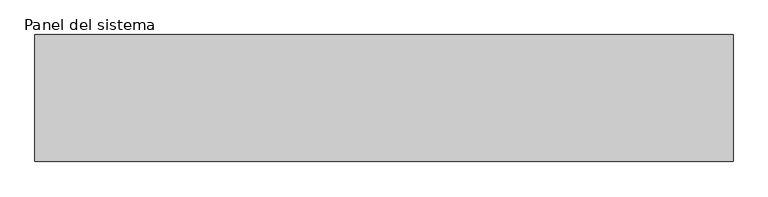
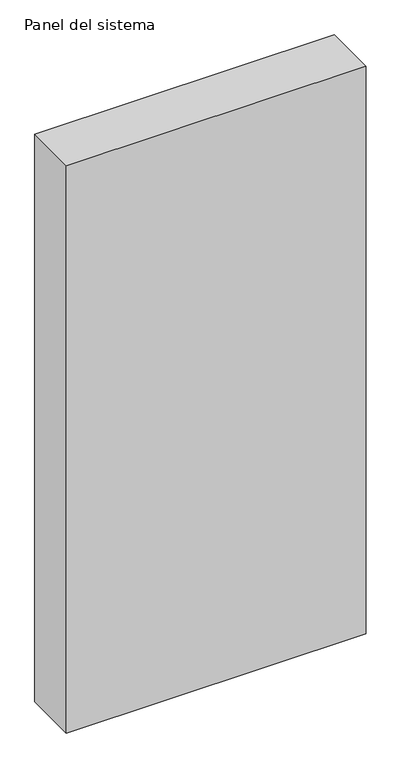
"""IFC4 building model written with IfcOpenShell, lengths in millimetres: plate geometry, Panel del sistema : Hiansa Panel - Fachada Panel FRIGO ULTRA - 200mm."""

from ifc_helpers import new_model, si_unit, origin, origin_with_axes, place, context, project, spatial, polyline, outline, extrude, source, transform, mapped, element, save


def panel_del_sistema_08b3212e(model_context):
    return source(origin(), model_context, "Body", "SweptSolid", [
        extrude(outline(polyline([(550.0000002, -200.0), (-550.0000002, -200.0), (-550.0000002, 0.0), (550.0000002, 0.0), (550.0000002, -200.0)])), origin_with_axes(), (0.0, 0.0, 1.0), 2200.0),
    ])


if __name__ == "__main__":
    model = new_model("IFC4")
    model_context = context("Model", 3, world=origin())
    ifc_project = project(units=[si_unit("LENGTHUNIT", "METRE", prefix="MILLI")], contexts=[model_context])
    site = spatial("IfcSite", under=ifc_project)
    building = spatial("IfcBuilding", under=site)
    placement = place(None, origin())
    panel_del_sistema_shape = panel_del_sistema_08b3212e(model_context)
    element("IfcPlate", 1, ObjectType="Panel del sistema : Hiansa Panel - Fachada Panel FRIGO ULTRA - 200mm", at=placement, inside=building, context=model_context, shape_type="MappedRepresentation", body=[
        mapped(panel_del_sistema_shape, transform((0.0, 0.0, 0.0), x_axis=(1.0, 0.0, 0.0), y_axis=(0.0, 1.0, 0.0), z_axis=(0.0, 0.0, 1.0))),
    ])
    save(model, "model.ifc")
